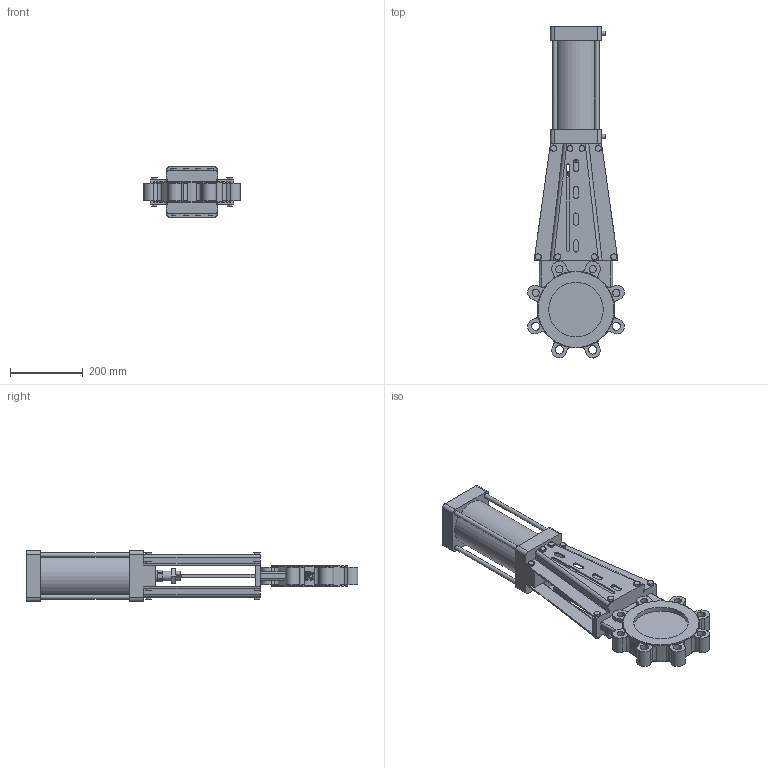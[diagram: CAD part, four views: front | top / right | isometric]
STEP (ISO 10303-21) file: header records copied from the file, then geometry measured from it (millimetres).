
FILE_DESCRIPTION(('STEP AP242'), '1');
FILE_NAME('GVKR1331M-1W-Fb-2P Çàäâèæêà øèáåðíàÿ ñ âûäâèæíûì øòîêîì DN.ru Äó150 Ðó10', '2026-05-25T20:53:43', ('R2D2'), (''), 'C3D Converter', 'C3D Toolkit', '');
FILE_SCHEMA(('AP242_MANAGED_MODEL_BASED_3D_ENGINEERING_MIM_LF { 1 0 10303 442 1 1 4 }'));
Length unit declared in the file: millimetre
Products named in the file (1): GVKR1331M-1W-Fb-2P
Bounding box: 266.31 x 913.16 x 140 mm (x, y, z)
Volume: 8332803.8 mm3; surface area: 811864.2 mm2
Topology: 1 solids, 1 shells, 848 faces, 2145 edges, 1352 vertices
Faces by surface type: plane 472, cylinder 144, extrusion 134, cone 96, torus 2
Full cylindrical faces by diameter (mm): 12 x6, 13 x8, 16 x8, 19.8 x2, 20 x8, 23 x4, 27 x1, 32 x1, 125 x1, 150 x2, 211 x1
Entity records: 45178 total; most frequent: CARTESIAN_POINT 18808, ORIENTED_EDGE 4200, DIRECTION 3614, EDGE_CURVE 2100, VERTEX_POINT 1352, AXIS2_PLACEMENT_3D 1213, VECTOR 1188, LINE 1054
